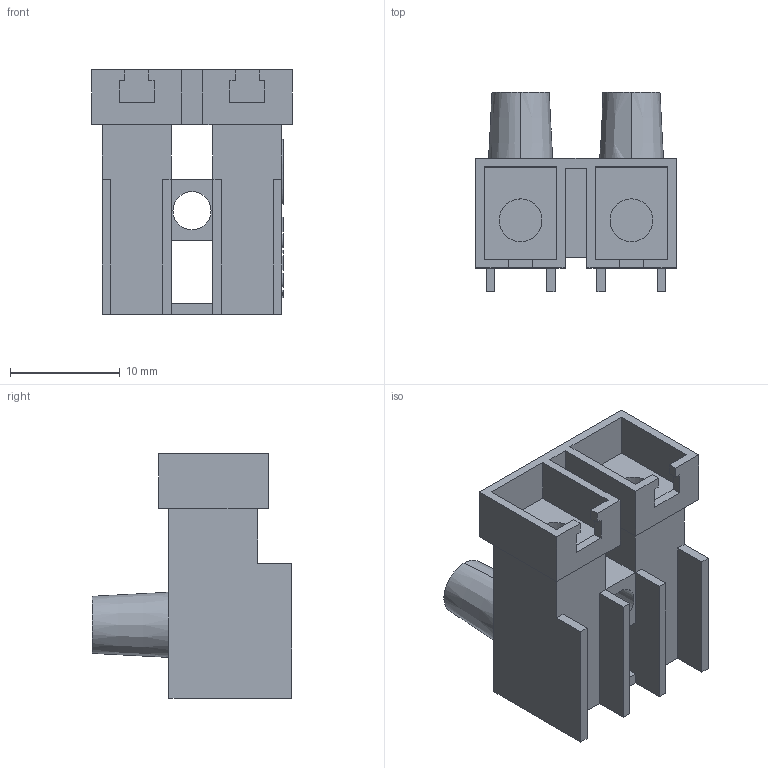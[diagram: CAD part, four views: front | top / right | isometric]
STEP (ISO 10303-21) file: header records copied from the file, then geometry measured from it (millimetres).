
FILE_DESCRIPTION((' '),'1');
FILE_NAME('007YR0BY01.stp','2010-03-04 T15:04:43',(' '),(' '),'STEP Interface v1.0 by CT CoreTechnologie','3D_Evolution v1.0 by CT CoreTechnologie',' ');
FILE_SCHEMA(('CONFIG_CONTROL_DESIGN'));
Length unit declared in the file: millimetre
Products named in the file (1): 007YR0BY01
Bounding box: 18.3 x 18.2 x 22.3 mm (x, y, z)
Volume: 2552.2 mm3; surface area: 2829.6 mm2
Topology: 1 solids, 1 shells, 213 faces, 547 edges, 364 vertices
Faces by surface type: plane 164, bspline 29, cylinder 20
Entity records: 10353 total; most frequent: CARTESIAN_POINT 3318, ORIENTED_EDGE 1094, DIRECTION 937, EDGE_CURVE 547, VECTOR 443, LINE 443, VERTEX_POINT 364, AXIS2_PLACEMENT_3D 247
